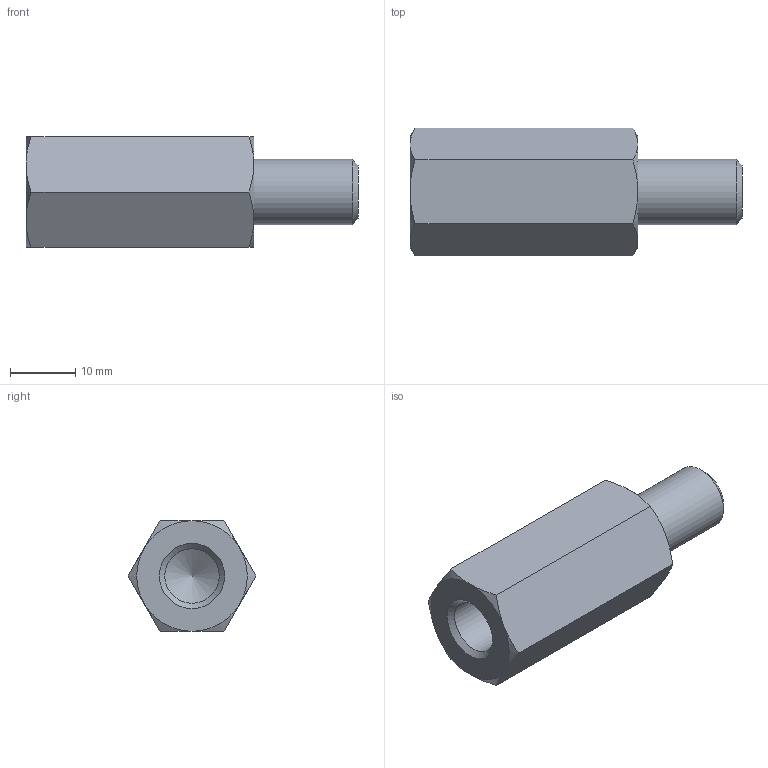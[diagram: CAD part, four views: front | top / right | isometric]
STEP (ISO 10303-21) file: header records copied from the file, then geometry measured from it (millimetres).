
FILE_DESCRIPTION( ( 'STEP AP203' ), '1' );
FILE_NAME( 'C:/Temp/Ganter_Step_05_03_2020/data/3_2/gn6220/gn6220_ni/Stainless Steel-Spacer GN 6220-NI-M10-35-B.stp', '2020-03-13T05:43:20', ( 'License CC BY-ND 4.0' ), ( 'CADENAS' ), ' ', 'PARTsolutions', ' ' );
FILE_SCHEMA( ( 'CONFIG_CONTROL_DESIGN' ) );
Length unit declared in the file: millimetre
Products named in the file (1): _Stainless Steel-Spacer GN 6220-NI-M10-35-B
Bounding box: 51 x 19.63 x 17 mm (x, y, z)
Volume: 8543.8 mm3; surface area: 3686.1 mm2
Topology: 1 solids, 1 shells, 26 faces, 55 edges, 32 vertices
Faces by surface type: cone 15, plane 9, cylinder 2
Full cylindrical faces by diameter (mm): 8.376 x1, 10 x1
Entity records: 778 total; most frequent: CARTESIAN_POINT 242, DIRECTION 96, ORIENTED_EDGE 96, EDGE_CURVE 48, AXIS2_PLACEMENT_3D 45, EDGE_LOOP 32, VERTEX_POINT 31, FACE_OUTER_BOUND 28
